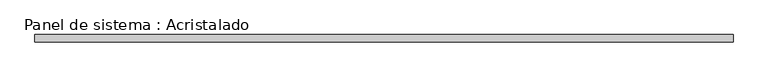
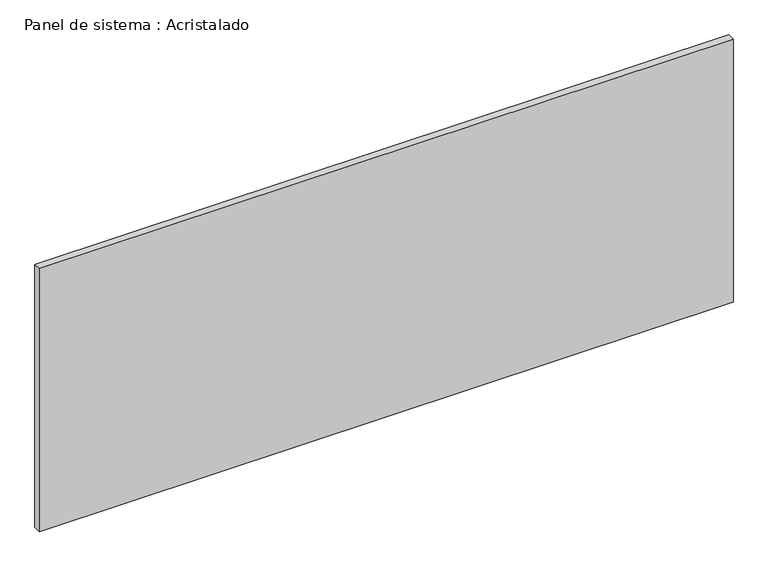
"""IFC4 building model written with IfcOpenShell, lengths in millimetres: plate geometry, Panel de sistema : Acristalado."""

from ifc_helpers import new_model, si_unit, origin, origin_with_axes, place, context, project, spatial, polyline, outline, extrude, source, transform, mapped, element, save


def panel_de_sistema_acristalado_058f662e(model_context):
    return source(origin(), model_context, "Body", "SweptSolid", [
        extrude(outline(polyline([(947.5, -10.0), (-947.5, -10.0), (-947.5, 10.0), (947.5, 10.0), (947.5, -10.0)])), origin_with_axes(), (0.0, 0.0, 1.0), 760.0),
    ])


if __name__ == "__main__":
    model = new_model("IFC4")
    model_context = context("Model", 3, world=origin())
    ifc_project = project(units=[si_unit("LENGTHUNIT", "METRE", prefix="MILLI")], contexts=[model_context])
    site = spatial("IfcSite", under=ifc_project)
    building = spatial("IfcBuilding", under=site)
    placement = place(None, origin())
    panel_de_sistema_acristalado_shape = panel_de_sistema_acristalado_058f662e(model_context)
    element("IfcPlate", 1, ObjectType="Panel de sistema : Acristalado", at=placement, inside=building, context=model_context, shape_type="MappedRepresentation", body=[
        mapped(panel_de_sistema_acristalado_shape, transform((0.0, 0.0, 0.0), x_axis=(1.0, 0.0, 0.0), y_axis=(0.0, 1.0, 0.0), z_axis=(0.0, 0.0, 1.0))),
    ])
    save(model, "model.ifc")
